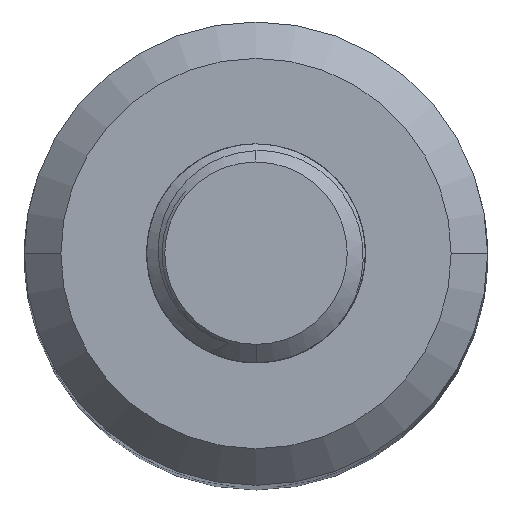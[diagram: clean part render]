
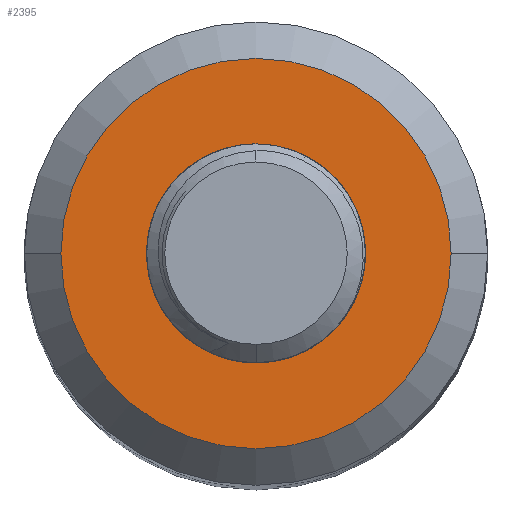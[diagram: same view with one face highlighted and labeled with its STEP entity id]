
A CAD part, top view. The second image highlights one B-rep face of the part: STEP entity #2395.
In plain terms, the highlighted planar face has unit normal (0, 0, 1).
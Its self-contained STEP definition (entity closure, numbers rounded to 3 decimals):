
#241=CARTESIAN_POINT('',(0.,0.,76.2));
#242=DIRECTION('',(0.,0.,1.));
#243=DIRECTION('',(-1.,0.,0.));
#244=AXIS2_PLACEMENT_3D('',#241,#242,#243);
#246=CARTESIAN_POINT('',(0.,0.,76.2));
#247=DIRECTION('',(0.,0.,1.));
#248=DIRECTION('',(1.,0.,0.));
#249=AXIS2_PLACEMENT_3D('',#246,#247,#248);
#251=CARTESIAN_POINT('',(0.,0.,76.2));
#252=DIRECTION('',(0.,0.,-1.));
#253=DIRECTION('',(0.,1.,0.));
#254=AXIS2_PLACEMENT_3D('',#251,#252,#253);
#256=CARTESIAN_POINT('',(0.,0.,76.2));
#257=DIRECTION('',(0.,0.,-1.));
#258=DIRECTION('',(0.,-1.,0.));
#259=AXIS2_PLACEMENT_3D('',#256,#257,#258);
#2028=CARTESIAN_POINT('',(-5.35,0.,76.2));
#2029=CARTESIAN_POINT('',(5.35,0.,76.2));
#2030=VERTEX_POINT('',#2028);
#2031=VERTEX_POINT('',#2029);
#2072=CARTESIAN_POINT('',(0.,2.,76.2));
#2073=CARTESIAN_POINT('',(0.,-2.,76.2));
#2074=VERTEX_POINT('',#2072);
#2075=VERTEX_POINT('',#2073);
#2379=CARTESIAN_POINT('',(0.,0.,76.2));
#2380=DIRECTION('',(0.,0.,1.));
#2381=DIRECTION('',(1.,0.,0.));
#2382=AXIS2_PLACEMENT_3D('',#2379,#2380,#2381);
#2383=PLANE('',#2382);
#2384=ORIENTED_EDGE('',*,*,#2369,.F.);
#2386=ORIENTED_EDGE('',*,*,#2385,.F.);
#2387=EDGE_LOOP('',(#2384,#2386));
#2388=FACE_OUTER_BOUND('',#2387,.F.);
#2390=ORIENTED_EDGE('',*,*,#2389,.F.);
#2392=ORIENTED_EDGE('',*,*,#2391,.F.);
#2393=EDGE_LOOP('',(#2390,#2392));
#2394=FACE_BOUND('',#2393,.F.);
#2395=ADVANCED_FACE('',(#2388,#2394),#2383,.T.);
#245=CIRCLE('',#244,5.35);
#250=CIRCLE('',#249,5.35);
#255=CIRCLE('',#254,2.);
#260=CIRCLE('',#259,2.);
#2369=EDGE_CURVE('',#2030,#2031,#245,.T.);
#2385=EDGE_CURVE('',#2031,#2030,#250,.T.);
#2389=EDGE_CURVE('',#2074,#2075,#255,.T.);
#2391=EDGE_CURVE('',#2075,#2074,#260,.T.);
